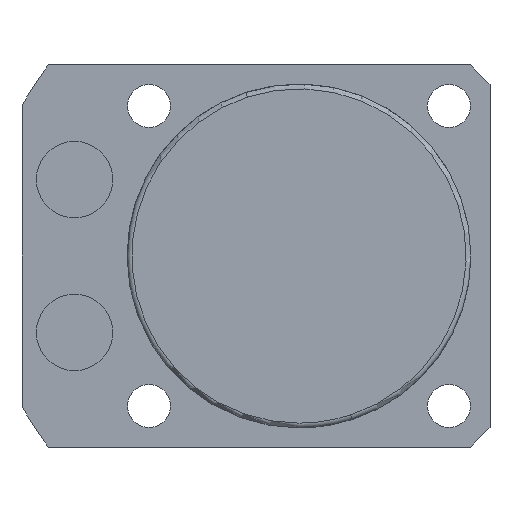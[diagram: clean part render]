
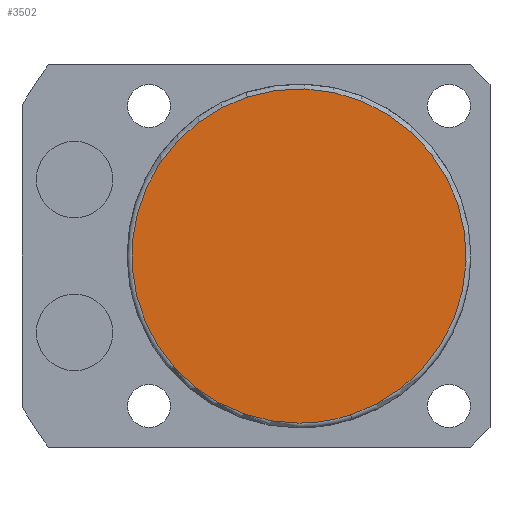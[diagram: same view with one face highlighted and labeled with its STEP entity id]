
A CAD part, front view. The second image highlights one B-rep face of the part: STEP entity #3502.
In plain terms, the highlighted planar face has unit normal (0, -1, 0).
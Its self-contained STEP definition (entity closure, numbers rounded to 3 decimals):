
#3468=CARTESIAN_POINT('',(0.0,-40.5,-17.5));
#3469=VERTEX_POINT('',#3468);
#3470=CARTESIAN_POINT('',(5.408,-40.5,-16.643));
#3471=VERTEX_POINT('',#3470);
#3472=CARTESIAN_POINT('',(0.0,-40.5,0.0));
#3473=DIRECTION('',(0.0,-1.0,0.0));
#3474=DIRECTION('',(0.0,0.0,-1.0));
#3475=AXIS2_PLACEMENT_3D('',#3472,#3473,#3474);
#3476=CIRCLE('',#3475,17.5);
#3477=EDGE_CURVE('no 3906',#3469,#3471,#3476,.T.);
#3478=ORIENTED_EDGE('',*,*,#3477,.T.);
#3479=CARTESIAN_POINT('',(-5.408,-40.5,16.643));
#3480=VERTEX_POINT('',#3479);
#3481=CARTESIAN_POINT('',(0.0,-40.5,0.0));
#3482=DIRECTION('',(0.0,-1.0,0.0));
#3483=DIRECTION('',(0.0,0.0,-1.0));
#3484=AXIS2_PLACEMENT_3D('',#3481,#3482,#3483);
#3485=CIRCLE('',#3484,17.5);
#3486=EDGE_CURVE('no 3912',#3471,#3480,#3485,.T.);
#3487=ORIENTED_EDGE('',*,*,#3486,.T.);
#3488=CARTESIAN_POINT('',(0.0,-40.5,0.0));
#3489=DIRECTION('',(0.0,-1.0,0.0));
#3490=DIRECTION('',(0.0,0.0,-1.0));
#3491=AXIS2_PLACEMENT_3D('',#3488,#3489,#3490);
#3492=CIRCLE('',#3491,17.5);
#3493=EDGE_CURVE('no 3916',#3480,#3469,#3492,.T.);
#3494=ORIENTED_EDGE('',*,*,#3493,.T.);
#3495=EDGE_LOOP('',(#3478,#3487,#3494));
#3496=FACE_OUTER_BOUND('',#3495,.T.);
#3497=CARTESIAN_POINT('',(0.0,-40.5,0.0));
#3498=DIRECTION('',(0.0,-1.0,0.0));
#3499=DIRECTION('',(0.0,0.0,-1.0));
#3500=AXIS2_PLACEMENT_3D('',#3497,#3498,#3499);
#3501=PLANE('',#3500);
#3502=ADVANCED_FACE('no 3897',(#3496),#3501,.T.);
